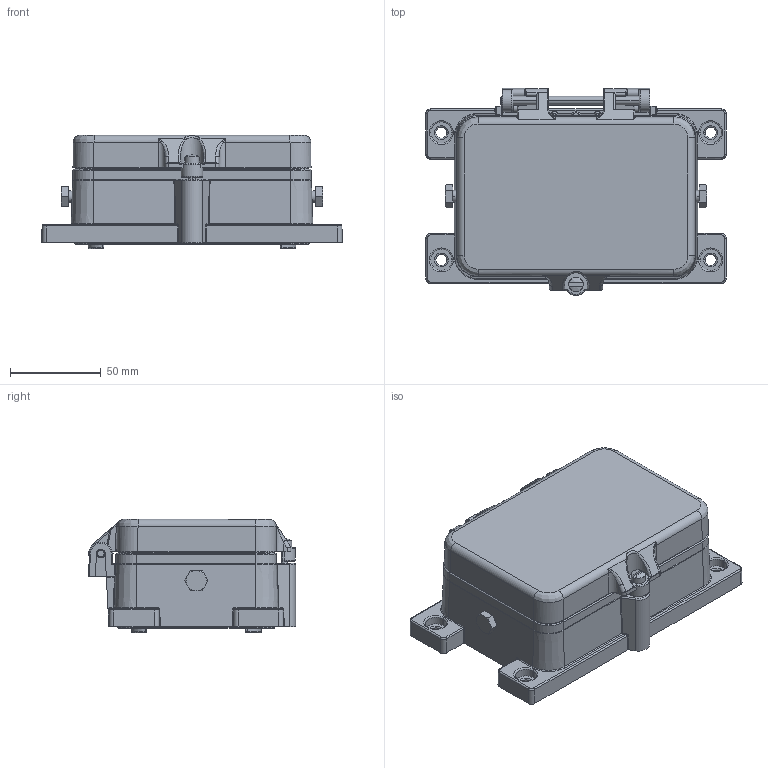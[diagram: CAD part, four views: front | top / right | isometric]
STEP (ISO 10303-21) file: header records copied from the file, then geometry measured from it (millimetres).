
FILE_DESCRIPTION((''),'2;1');
FILE_NAME('RAI-GFCI-104-B_ASM','2026-06-23T14:52:10',('vorndrm'),('CARRIER_CORP'),'CREO PARAMETRIC BY PTC INC, 2025183','CREO PARAMETRIC BY PTC INC, 2025183','');
FILE_SCHEMA(('CONFIG_CONTROL_DESIGN'));
Length unit declared in the file: inch
Products named in the file (6): RAI-GFCI-104-B-1; RAI-GFCI-104-B-3; RAI-GFCI-104-B-2; 92245A541_HEX_HEAD_SCR; 94375A635_CAPTIVE; RAI-GFCI-104-B_ASM
Assembly tree (6 placements, depth 2):
  RAI-GFCI-104-B_ASM
    RAI-GFCI-104-B-1
    RAI-GFCI-104-B-3
    RAI-GFCI-104-B-2
    92245A541_HEX_HEAD_SCR  x2
    94375A635_CAPTIVE
Bounding box: 165 x 113.93 x 62.29 mm (x, y, z)
Volume: 253335.3 mm3; surface area: 98804.9 mm2
Topology: 7 solids, 7 shells, 892 faces, 2187 edges, 1321 vertices
Faces by surface type: cylinder 363, plane 232, bspline 139, torus 86, cone 40, sphere 16, extrusion 16
Entity records: 40485 total; most frequent: CARTESIAN_POINT 21569, ORIENTED_EDGE 4158, DIRECTION 3599, EDGE_CURVE 2079, AXIS2_PLACEMENT_3D 1351, VERTEX_POINT 1251, VECTOR 897, EDGE_LOOP 884
